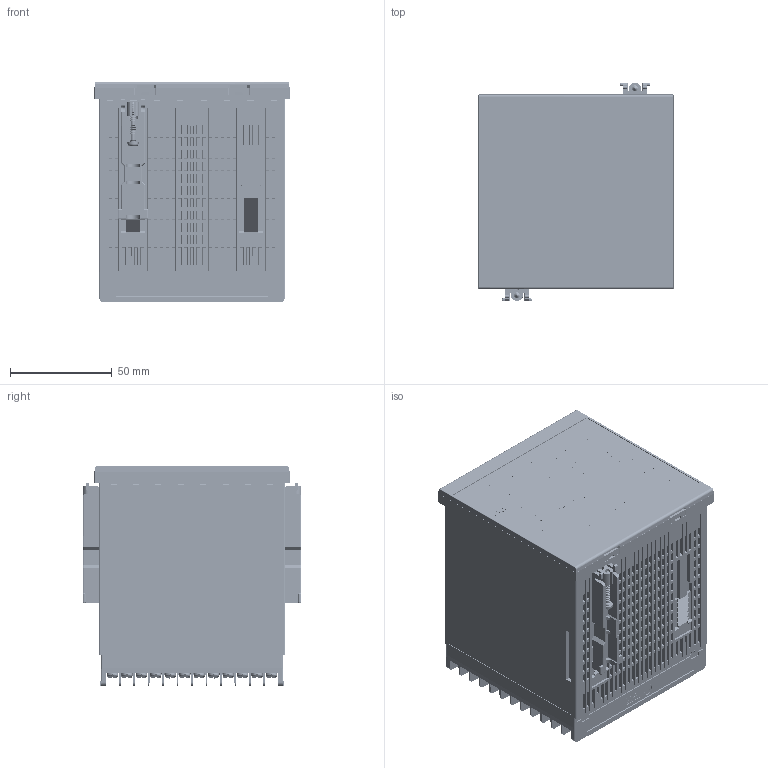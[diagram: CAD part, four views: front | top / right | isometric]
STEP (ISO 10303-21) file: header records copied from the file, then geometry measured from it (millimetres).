
FILE_DESCRIPTION (( 'STEP AP203' ), '1' );
FILE_NAME ('MA900_WEB.STEP', '2020-05-15T03:22:31', ( '' ), ( '' ), 'SwSTEP 2.0', 'SolidWorks 2018', '' );
FILE_SCHEMA (( 'CONFIG_CONTROL_DESIGN' ));
Length unit declared in the file: millimetre
Products named in the file (3): MA900（基本設計）_WEB; MA900_WEB; CB取付具_WEB
Assembly tree (3 placements, depth 2):
  MA900_WEB
    MA900（基本設計）_WEB
    CB取付具_WEB  x2
Bounding box: 95.9 x 107.25 x 108.2 mm (x, y, z)
Volume: 852434.4 mm3; surface area: 127418.9 mm2
Topology: 14 solids, 38 shells, 14722 faces, 41113 edges, 26796 vertices
Faces by surface type: plane 10255, bspline 2118, cylinder 1775, torus 364, cone 198, sphere 12
Entity records: 509762 total; most frequent: CARTESIAN_POINT 156399, ORIENTED_EDGE 79308, DIRECTION 63657, EDGE_CURVE 39654, VECTOR 30665, LINE 30665, VERTEX_POINT 25887, AXIS2_PLACEMENT_3D 16496
